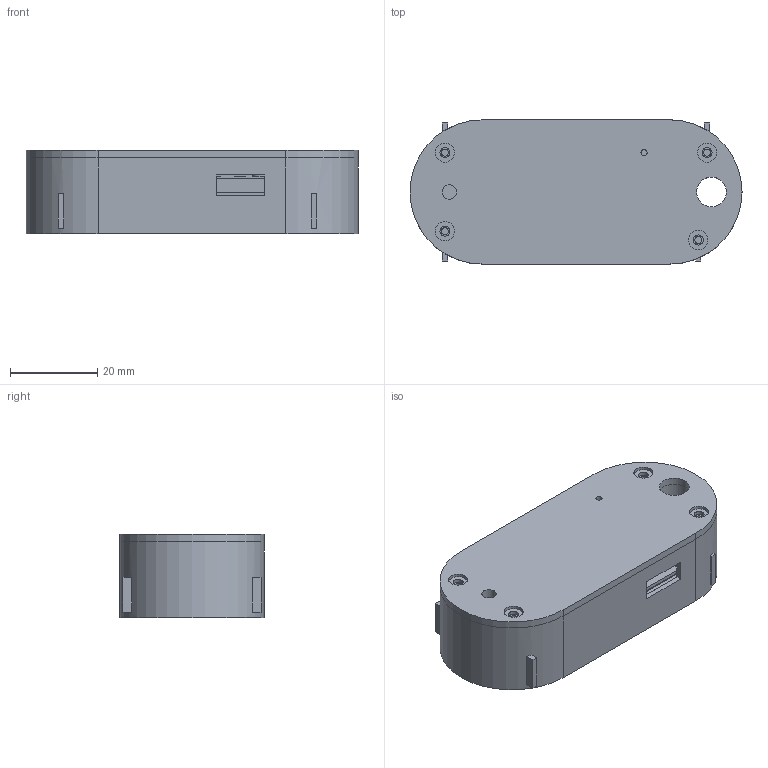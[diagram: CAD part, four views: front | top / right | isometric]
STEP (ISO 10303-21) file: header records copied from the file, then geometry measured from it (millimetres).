
FILE_DESCRIPTION(('Open CASCADE Model'),'2;1');
FILE_NAME('Open CASCADE Shape Model','2026-08-28T00:57:55',('Author'),( 'Open CASCADE'),'Open CASCADE STEP processor 7.8','Open CASCADE 7.8' ,'Unknown');
FILE_SCHEMA(('AUTOMOTIVE_DESIGN { 1 0 10303 214 1 1 1 1 }'));
Length unit declared in the file: millimetre
Products named in the file (11): Anticipy v0.7 no-custom-PCB retained prototype; P2S printed base; P2S printed lid; P2S printed board carrier; BBM protected 602535 500 mAh pack; Vybronics VCLP1020B002L ERM; haptic driver + 100 uF bulk-cap cluster; C&K OS102011MA1QN1 hard-off switch; Adafruit Audio BFF 5769 with microSD; Seeed XIAO nRF52840 Sense headerless; C&K KSC201G-LFS button
Assembly tree (10 placements, depth 2):
  Anticipy v0.7 no-custom-PCB retained prototype
    P2S printed base
    P2S printed lid
    P2S printed board carrier
    BBM protected 602535 500 mAh pack
    Vybronics VCLP1020B002L ERM
    haptic driver + 100 uF bulk-cap cluster
    C&K OS102011MA1QN1 hard-off switch
    Adafruit Audio BFF 5769 with microSD
    Seeed XIAO nRF52840 Sense headerless
    C&K KSC201G-LFS button
Bounding box: 76 x 33 x 19 mm (x, y, z)
Volume: 22928.4 mm3; surface area: 28331.5 mm2
Topology: 10 solids, 10 shells, 462 faces, 1208 edges, 800 vertices
Faces by surface type: plane 389, cylinder 73
Full cylindrical faces by diameter (mm): 1.4 x1, 1.6 x4, 2.3 x4, 3.3 x1, 3.4 x1, 4.4 x4, 4.9 x1, 5.2 x3, 5.8 x4, 6.8 x2, 9.5 x1, 10 x1, 10.3 x1, 10.8 x1
Entity records: 30095 total; most frequent: CARTESIAN_POINT 6013, DIRECTION 4267, LINE 2802, VECTOR 2802, ORIENTED_EDGE 2416, PCURVE 2416, DEFINITIONAL_REPRESENTATION 2416, EDGE_CURVE 1208
